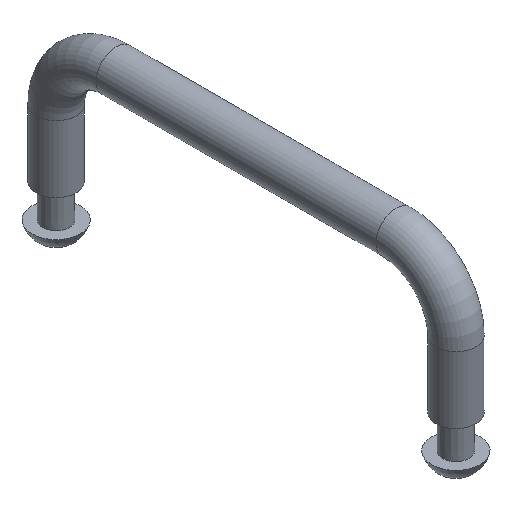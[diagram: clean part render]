
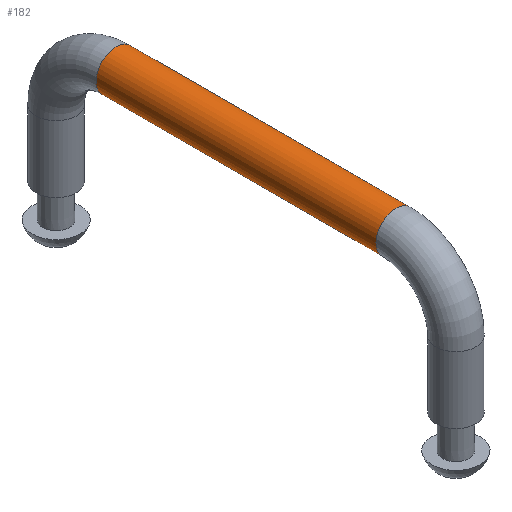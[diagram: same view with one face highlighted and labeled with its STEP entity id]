
A CAD part, isometric view. The second image highlights one B-rep face of the part: STEP entity #182.
In plain terms, the highlighted cylindrical face has radius 3 mm (diameter 6 mm), a full revolution.
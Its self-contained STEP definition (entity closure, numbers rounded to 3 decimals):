
#182=ADVANCED_FACE('',(#396,#397),#398,.T.);
#396=FACE_OUTER_BOUND('',#680,.T.);
#397=FACE_OUTER_BOUND('',#681,.T.);
#398=CYLINDRICAL_SURFACE('',#682,3.0);
#680=EDGE_LOOP('',(#952));
#681=EDGE_LOOP('',(#953));
#682=AXIS2_PLACEMENT_3D('',#954,#955,#956);
#952=ORIENTED_EDGE('',*,*,#1677,.T.);
#953=ORIENTED_EDGE('',*,*,#1678,.F.);
#954=CARTESIAN_POINT('',(3.0,12.0,19.0));
#955=DIRECTION('',(0.0,1.0,0.0));
#956=DIRECTION('',(0.0,0.0,-1.0));
#1677=EDGE_CURVE('',#1954,#1954,#1955,.T.);
#1678=EDGE_CURVE('',#1956,#1956,#1957,.T.);
#1954=VERTEX_POINT('',#2359);
#1955=CIRCLE('',#2360,3.0);
#1956=VERTEX_POINT('',#2361);
#1957=CIRCLE('',#2362,3.0);
#2359=CARTESIAN_POINT('',(3.0,12.0,16.0));
#2360=AXIS2_PLACEMENT_3D('',#2971,#2972,#2973);
#2361=CARTESIAN_POINT('',(3.0,54.0,16.0));
#2362=AXIS2_PLACEMENT_3D('',#2974,#2975,#2976);
#2971=CARTESIAN_POINT('',(3.0,12.0,19.0));
#2972=DIRECTION('',(0.,1.0,0.));
#2973=DIRECTION('',(0.,0.,-1.0));
#2974=CARTESIAN_POINT('',(3.0,54.0,19.0));
#2975=DIRECTION('',(0.,1.0,0.));
#2976=DIRECTION('',(0.,0.,-1.0));
